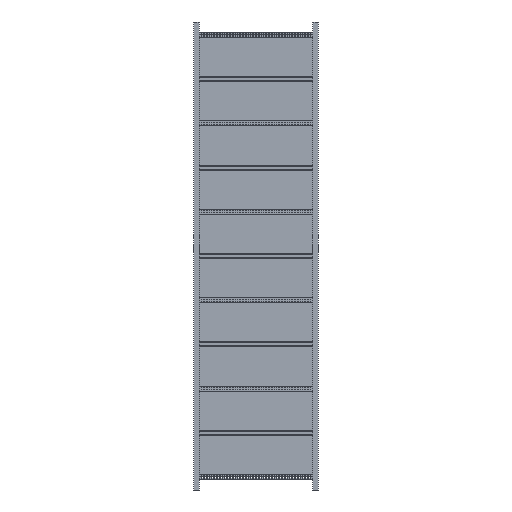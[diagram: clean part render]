
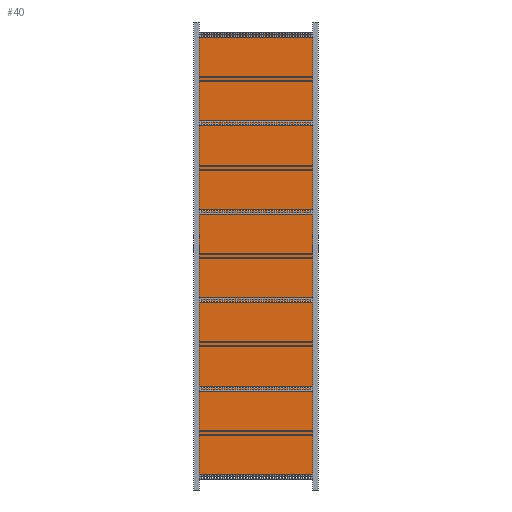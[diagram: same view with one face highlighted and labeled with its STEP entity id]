
A CAD part, front view. The second image highlights one B-rep face of the part: STEP entity #40.
In plain terms, the highlighted planar face has unit normal (0, 1, 0).
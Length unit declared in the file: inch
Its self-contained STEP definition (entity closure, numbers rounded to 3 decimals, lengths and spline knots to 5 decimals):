
#1=DIRECTION('',(0.,0.,-1.));
#2=VECTOR('',#1,136.);
#3=CARTESIAN_POINT('',(-18.,-1.,-4.));
#4=LINE('',#3,#2);
#5=DIRECTION('',(1.,0.,0.));
#6=VECTOR('',#5,36.);
#7=CARTESIAN_POINT('',(-18.,-1.,-140.));
#8=LINE('',#7,#6);
#9=DIRECTION('',(0.,0.,1.));
#10=VECTOR('',#9,136.);
#11=CARTESIAN_POINT('',(18.,-1.,-140.));
#12=LINE('',#11,#10);
#13=DIRECTION('',(-1.,0.,0.));
#14=VECTOR('',#13,36.);
#15=CARTESIAN_POINT('',(18.,-1.,-4.));
#16=LINE('',#15,#14);
#17=CARTESIAN_POINT('',(-18.,-1.,-140.));
#18=CARTESIAN_POINT('',(-18.,-1.,-4.));
#19=VERTEX_POINT('',#17);
#20=VERTEX_POINT('',#18);
#21=CARTESIAN_POINT('',(18.,-1.,-4.));
#22=VERTEX_POINT('',#21);
#23=CARTESIAN_POINT('',(18.,-1.,-140.));
#24=VERTEX_POINT('',#23);
#25=CARTESIAN_POINT('',(0.,-1.,0.));
#26=DIRECTION('',(0.,1.,0.));
#27=DIRECTION('',(1.,0.,0.));
#28=AXIS2_PLACEMENT_3D('',#25,#26,#27);
#29=PLANE('',#28);
#31=ORIENTED_EDGE('',*,*,#30,.T.);
#33=ORIENTED_EDGE('',*,*,#32,.T.);
#35=ORIENTED_EDGE('',*,*,#34,.T.);
#37=ORIENTED_EDGE('',*,*,#36,.T.);
#38=EDGE_LOOP('',(#31,#33,#35,#37));
#39=FACE_OUTER_BOUND('',#38,.F.);
#40=ADVANCED_FACE('',(#39),#29,.T.);
#30=EDGE_CURVE('',#20,#19,#4,.T.);
#32=EDGE_CURVE('',#19,#24,#8,.T.);
#34=EDGE_CURVE('',#24,#22,#12,.T.);
#36=EDGE_CURVE('',#22,#20,#16,.T.);
